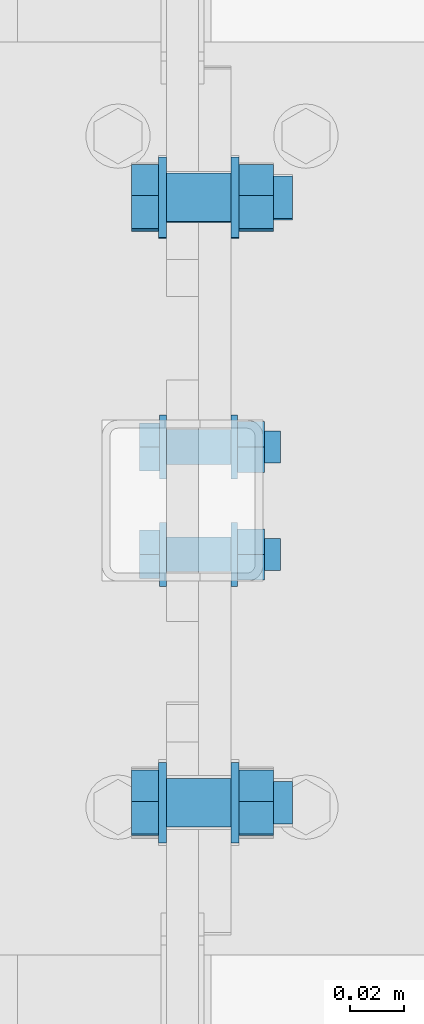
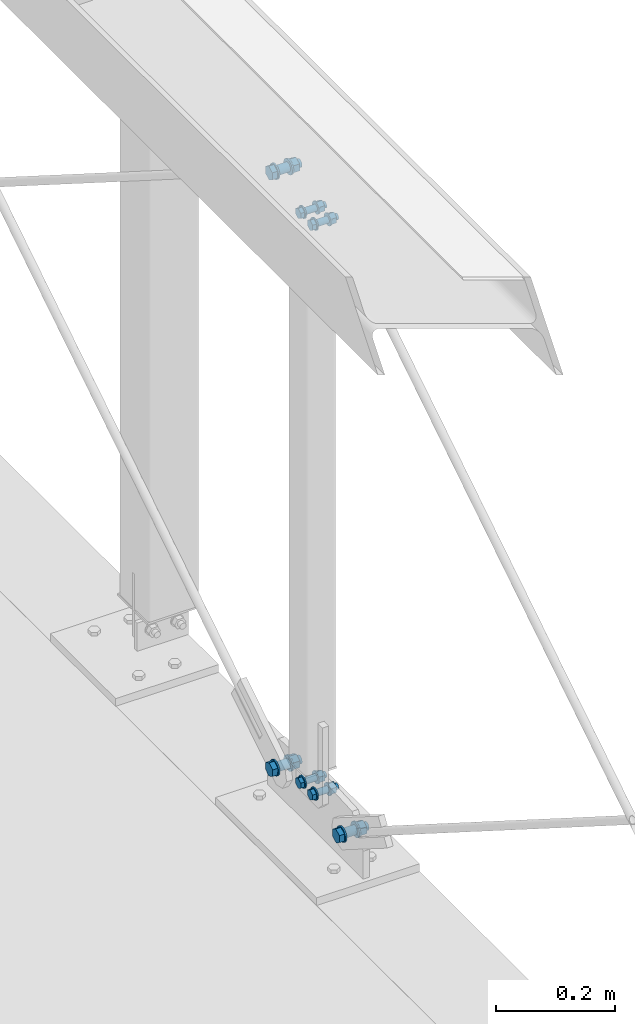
# One storey, part 260 of 271: 5 mechanical fasteners, 4 elements without a shape of their own.
"""IFC2X3 building model written with IfcOpenShell, lengths in millimetres."""

from ifc_helpers import new_model, si_unit, frame, origin_with_axes, origin_2d_with_axis, place, context, subcontext, project, spatial, polyline, circle, outline, extrude, source, transform, mapped, material, type_object, element, aggregate, save


model = new_model("IFC2X3")

# Units and contexts
model_context = context("Model", 3, precision=1e-05, world=origin_with_axes())
body_context = subcontext(model_context, "Body", "Model", "MODEL_VIEW")
ifc_project = project(units=[si_unit("LENGTHUNIT", "METRE", prefix="MILLI"), si_unit("AREAUNIT", "SQUARE_METRE"), si_unit("VOLUMEUNIT", "CUBIC_METRE"), si_unit("MASSUNIT", "GRAM", prefix="KILO"), si_unit("TIMEUNIT", "SECOND"), si_unit("PLANEANGLEUNIT", "RADIAN"), si_unit("SOLIDANGLEUNIT", "STERADIAN"), si_unit("THERMODYNAMICTEMPERATUREUNIT", "DEGREE_CELSIUS"), si_unit("LUMINOUSINTENSITYUNIT", "LUMEN")], contexts=[model_context])

# Site, building, storey
site_placement = place(None, origin_with_axes())
site = spatial("IfcSite", under=ifc_project, at=site_placement, Name="Undefined", CompositionType="ELEMENT")
building_placement = place(site_placement, origin_with_axes())
building = spatial("IfcBuilding", under=site, at=building_placement, Name="Undefined", CompositionType="ELEMENT")
storey_placement = place(building_placement, origin_with_axes())
storey = spatial("IfcBuildingStorey", under=building, at=storey_placement, Name="Undefined", CompositionType="ELEMENT", Elevation=0.0)

# Assembly, mechanical fastener
assembly_1_placement = place(storey_placement, origin_with_axes())
assembly_1 = element("IfcElementAssembly", 1, at=assembly_1_placement, inside=storey, AssemblyPlace="NOTDEFINED", PredefinedType="RIGID_FRAME")
ifc_material = material(Name="Undefined")
mechanical_fastener_type = type_object("IfcMechanicalFastenerType", Name="Bolt assembly")
shared_shape_1 = source(origin_with_axes(), body_context, "Body", "SweptSolid", [
    extrude(circle(Radius=9.0, at=origin_2d_with_axis()), frame((0.0, -6.1, 0.0), z_axis=(0.0, 1.0, 0.0), x_axis=(1.0, 0.0, 0.0)), (0.0, 0.0, 1.0), 12.1),
    extrude(circle(Radius=9.0, at=origin_2d_with_axis()), frame((0.0, -17.9, 0.0), z_axis=(0.0, 1.0, 0.0), x_axis=(1.0, 0.0, 0.0)), (0.0, 0.0, 1.0), 12.0),
    extrude(outline(polyline([(13.85640646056, 0.0), (6.92820323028, 12.0000000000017), (-6.92820323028, 12.0000000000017), (-13.85640646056, 0.0), (-6.92820323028, -12.0000000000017), (6.92820323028, -12.0000000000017), (13.85640646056, 0.0)])), frame((0.0, -31.0, 0.0), z_axis=(0.0, 1.0, 0.0), x_axis=(1.0, 0.0, 0.0)), (0.0, 0.0, 1.0), 10.0),
    extrude(circle(Radius=8.0, at=origin_2d_with_axis()), frame((0.0, -21.0, 0.0), z_axis=(0.0, 1.0, 0.0), x_axis=(1.0, 0.0, 0.0)), (0.0, 0.0, 1.0), 50.0),
    extrude(circle(Radius=15.0, at=origin_2d_with_axis()), frame((0.0, -21.0, 0.0), z_axis=(0.0, 1.0, 0.0), x_axis=(1.0, 0.0, 0.0)), (0.0, 0.0, 1.0), 3.0),
    extrude(circle(Radius=15.0, at=origin_2d_with_axis()), frame((0.0, 6.0, 0.0), z_axis=(0.0, 1.0, 0.0), x_axis=(1.0, 0.0, 0.0)), (0.0, 0.0, 1.0), 3.0),
    extrude(outline(polyline([(13.85640646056, 0.0), (6.92820323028, 12.0000000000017), (-6.92820323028, 12.0000000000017), (-13.85640646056, 0.0), (-6.92820323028, -12.0000000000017), (6.92820323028, -12.0000000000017), (13.85640646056, 0.0)])), frame((0.0, 9.0, 0.0), z_axis=(0.0, 1.0, 0.0), x_axis=(1.0, 0.0, 0.0)), (0.0, 0.0, 1.0), 13.0),
])
mechanical_fastener_1_placement = place(assembly_1_placement, frame((12609.7513748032, 2291.72879462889, 68.2711925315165), z_axis=(0.0, 0.533166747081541, -0.846010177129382), x_axis=(0.0, 0.846010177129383, 0.533166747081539)))
mechanical_fastener_1 = element("IfcMechanicalFastener", 2, at=mechanical_fastener_1_placement, type_object=mechanical_fastener_type, material=ifc_material, Name="Bolt assembly", NominalDiameter=16.0, NominalLength=50.0, context=body_context, shape_type="MappedRepresentation", body=[
    mapped(shared_shape_1, transform((0.0, 0.0, 0.0))),
])
aggregate(assembly_1, [mechanical_fastener_1])

assembly_2_placement = place(storey_placement, origin_with_axes())
assembly_2 = element("IfcElementAssembly", 3, at=assembly_2_placement, inside=storey, AssemblyPlace="NOTDEFINED", PredefinedType="RIGID_FRAME")
mechanical_fastener_2_placement = place(assembly_2_placement, frame((12609.7513748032, 2066.65830478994, 68.2711935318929), z_axis=(0.0, 0.533166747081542, 0.846010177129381), x_axis=(0.0, -0.846010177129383, 0.533166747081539)))
mechanical_fastener_2 = element("IfcMechanicalFastener", 4, at=mechanical_fastener_2_placement, type_object=mechanical_fastener_type, material=ifc_material, Name="Bolt assembly", NominalDiameter=16.0, NominalLength=50.0, context=body_context, shape_type="MappedRepresentation", body=[
    mapped(shared_shape_1, transform((0.0, 0.0, 0.0))),
])
aggregate(assembly_2, [mechanical_fastener_2])

assembly_3_placement = place(storey_placement, origin_with_axes())
assembly_3 = element("IfcElementAssembly", 5, at=assembly_3_placement, inside=storey, AssemblyPlace="NOTDEFINED", PredefinedType="RIGID_FRAME")
mechanical_fastener_3_placement = place(assembly_3_placement, frame((12609.7513748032, 2292.21851400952, 1292.75355637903), z_axis=(0.0, -0.535126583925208, -0.844771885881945), x_axis=(0.0, 0.84477188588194, -0.535126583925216)))
mechanical_fastener_3 = element("IfcMechanicalFastener", 6, at=mechanical_fastener_3_placement, type_object=mechanical_fastener_type, material=ifc_material, Name="Bolt assembly", NominalDiameter=16.0, NominalLength=50.0, context=body_context, shape_type="MappedRepresentation", body=[
    mapped(shared_shape_1, transform((0.0, 0.0, 0.0))),
])
aggregate(assembly_3, [mechanical_fastener_3])

# Assembly, mechanical fasteners
assembly_4_placement = place(storey_placement, origin_with_axes())
assembly_4 = element("IfcElementAssembly", 7, at=assembly_4_placement, inside=storey, AssemblyPlace="NOTDEFINED", PredefinedType="RIGID_FRAME")
shared_shape_2 = source(origin_with_axes(), body_context, "Body", "SweptSolid", [
    extrude(circle(Radius=6.5, at=origin_2d_with_axis()), frame((0.0, -6.1, 0.0), z_axis=(0.0, 1.0, 0.0), x_axis=(1.0, 0.0, 0.0)), (0.0, 0.0, 1.0), 12.1),
    extrude(circle(Radius=6.5, at=origin_2d_with_axis()), frame((0.0, -17.9, 0.0), z_axis=(0.0, 1.0, 0.0), x_axis=(1.0, 0.0, 0.0)), (0.0, 0.0, 1.0), 12.0),
    extrude(outline(polyline([(10.39230484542, 0.0), (5.19615242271, 9.00000000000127), (-5.19615242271, 9.00000000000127), (-10.39230484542, 0.0), (-5.19615242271, -9.00000000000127), (5.19615242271, -9.00000000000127), (10.39230484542, 0.0)])), frame((0.0, -28.0, 0.0), z_axis=(0.0, 1.0, 0.0), x_axis=(1.0, 0.0, 0.0)), (0.0, 0.0, 1.0), 7.5),
    extrude(circle(Radius=6.0, at=origin_2d_with_axis()), frame((0.0, -20.5, 0.0), z_axis=(0.0, 1.0, 0.0), x_axis=(1.0, 0.0, 0.0)), (0.0, 0.0, 1.0), 45.0),
    extrude(circle(Radius=12.0, at=origin_2d_with_axis()), frame((0.0, -20.5, 0.0), z_axis=(0.0, 1.0, 0.0), x_axis=(1.0, 0.0, 0.0)), (0.0, 0.0, 1.0), 2.5),
    extrude(circle(Radius=12.0, at=origin_2d_with_axis()), frame((0.0, 6.0, 0.0), z_axis=(0.0, 1.0, 0.0), x_axis=(1.0, 0.0, 0.0)), (0.0, 0.0, 1.0), 2.5),
    extrude(outline(polyline([(10.96965511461, 0.0), (5.484827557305, 9.50000000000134), (-5.484827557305, 9.50000000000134), (-10.96965511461, 0.0), (-5.484827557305, -9.50000000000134), (5.484827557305, -9.50000000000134), (10.96965511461, 0.0)])), frame((0.0, 8.5, 0.0), z_axis=(0.0, 1.0, 0.0), x_axis=(1.0, 0.0, 0.0)), (0.0, 0.0, 1.0), 10.0),
])
mechanical_fastener_4_placement = place(assembly_4_placement, frame((12609.7513748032, 2179.19355050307, 95.2313232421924), z_axis=(0.0, 1.0, 0.0), x_axis=(0.0, 0.0, 1.0)))
mechanical_fastener_4 = element("IfcMechanicalFastener", 8, at=mechanical_fastener_4_placement, type_object=mechanical_fastener_type, material=ifc_material, Name="Bolt assembly", NominalDiameter=12.0, NominalLength=45.0, context=body_context, shape_type="MappedRepresentation", body=[
    mapped(shared_shape_2, transform((0.0, 0.0, -20.0))),
    mapped(shared_shape_2, transform((0.0, 0.0, 20.0))),
])
mechanical_fastener_5_placement = place(assembly_4_placement, frame((12609.7513748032, 2179.19355050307, 1265.24585413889), z_axis=(0.0, -1.0, 0.0), x_axis=(0.0, 0.0, -1.0)))
mechanical_fastener_5 = element("IfcMechanicalFastener", 9, at=mechanical_fastener_5_placement, type_object=mechanical_fastener_type, material=ifc_material, Name="Bolt assembly", NominalDiameter=12.0, NominalLength=45.0, context=body_context, shape_type="MappedRepresentation", body=[
    mapped(shared_shape_2, transform((0.0, 0.0, -20.0))),
    mapped(shared_shape_2, transform((0.0, 0.0, 20.0))),
])
aggregate(assembly_4, [mechanical_fastener_4, mechanical_fastener_5])

save(model, "model.ifc")
